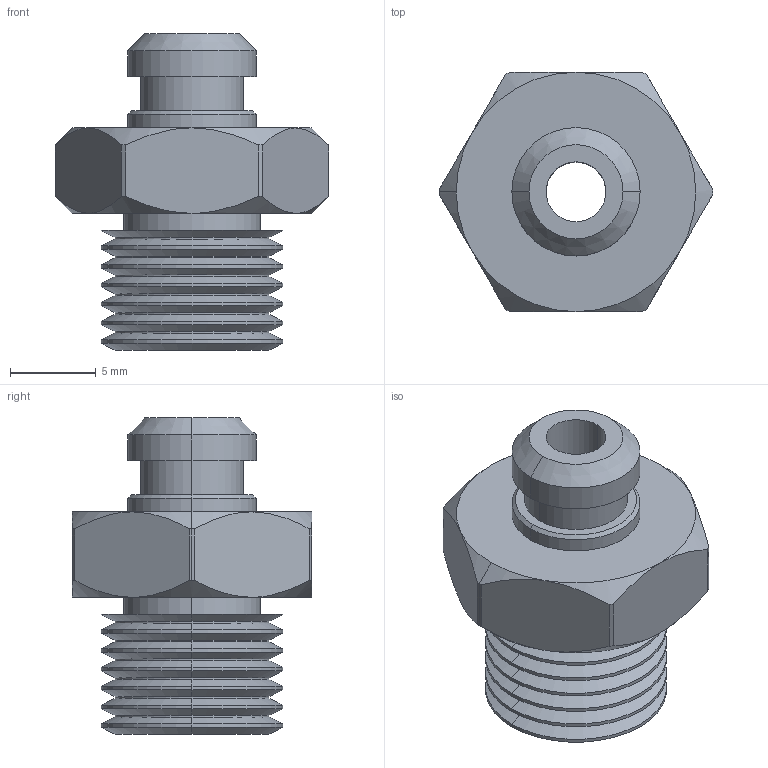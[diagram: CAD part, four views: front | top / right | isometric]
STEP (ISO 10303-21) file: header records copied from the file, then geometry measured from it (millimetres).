
FILE_DESCRIPTION (( 'STEP AP214' ), '1' );
FILE_NAME ('VM-16-G1-8.STEP', '2023-03-06T01:58:15', ( 'Windows User' ), ( 'P R C' ), 'SwSTEP 2.0', 'SolidWorks 2019', '' );
FILE_SCHEMA (( 'AUTOMOTIVE_DESIGN' ));
Length unit declared in the file: millimetre
Products named in the file (1): VM-16-G1-8
Bounding box: 16 x 14 x 18.5 mm (x, y, z)
Volume: 1447.6 mm3; surface area: 1367.8 mm2
Topology: 1 solids, 1 shells, 98 faces, 208 edges, 117 vertices
Faces by surface type: cone 44, cylinder 41, plane 13
Entity records: 2755 total; most frequent: CARTESIAN_POINT 592, DIRECTION 487, ORIENTED_EDGE 416, EDGE_CURVE 208, AXIS2_PLACEMENT_3D 204, VERTEX_POINT 117, EDGE_LOOP 105, CIRCLE 105
